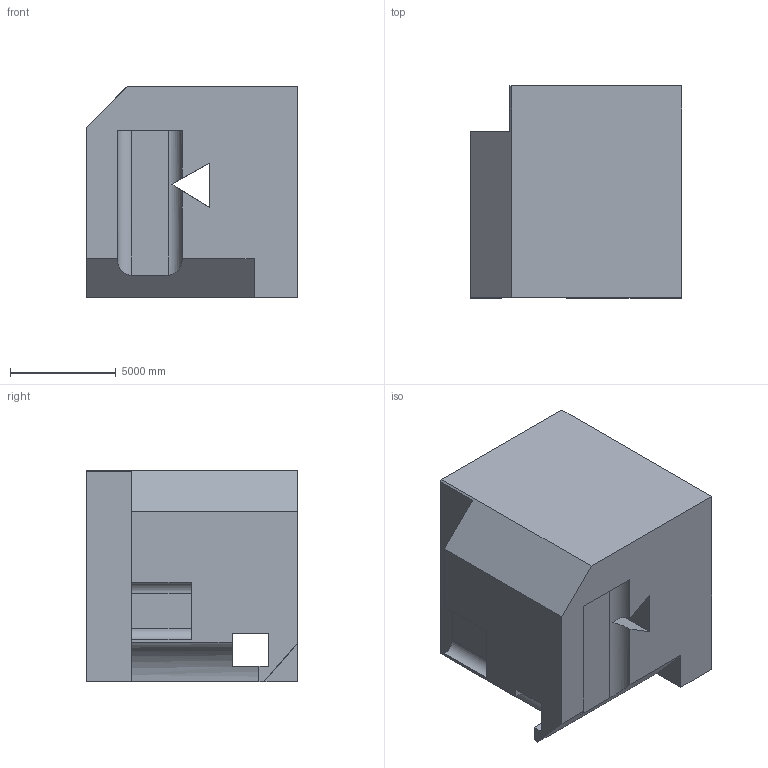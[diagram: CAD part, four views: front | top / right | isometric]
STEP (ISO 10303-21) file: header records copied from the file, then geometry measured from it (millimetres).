
FILE_DESCRIPTION (( 'STEP AP203' ), '1' );
FILE_NAME ('367.STEP', '2022-09-07T13:14:45', ( 'user' ), ( '' ), 'SwSTEP 2.0', 'SolidWorks 2021', '' );
FILE_SCHEMA (( 'CONFIG_CONTROL_DESIGN' ));
Length unit declared in the file: centimetre
Products named in the file (1): 367
Bounding box: 10000 x 10000 x 10000 mm (x, y, z)
Volume: 853717479719.6 mm3; surface area: 684898468.2 mm2
Topology: 1 solids, 1 shells, 30 faces, 89 edges, 59 vertices
Faces by surface type: plane 24, cylinder 6
Entity records: 1081 total; most frequent: CARTESIAN_POINT 191, ORIENTED_EDGE 178, DIRECTION 158, EDGE_CURVE 89, LINE 74, VECTOR 74, VERTEX_POINT 59, AXIS2_PLACEMENT_3D 42
